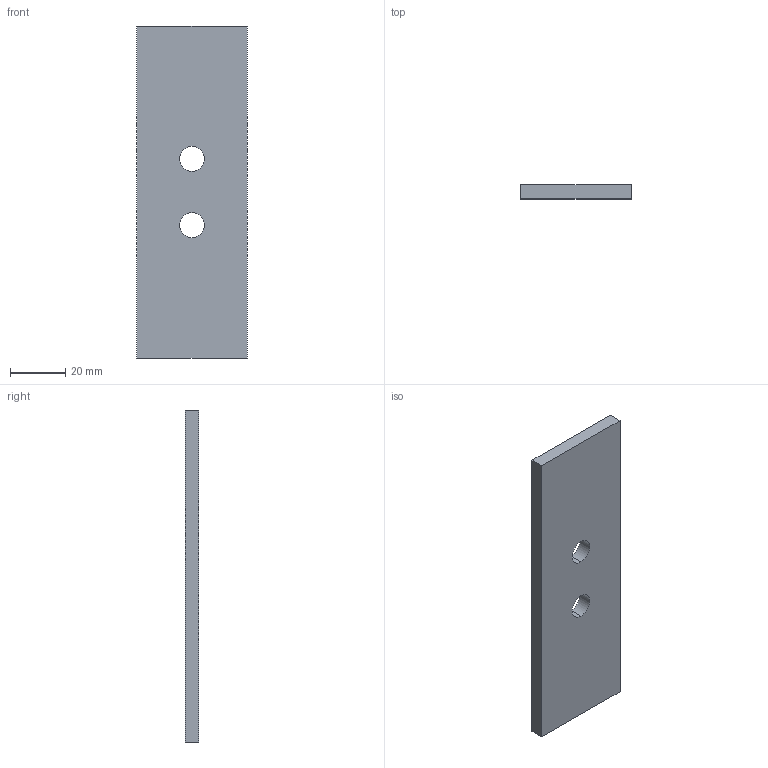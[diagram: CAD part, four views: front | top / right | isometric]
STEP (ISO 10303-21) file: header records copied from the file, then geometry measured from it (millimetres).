
FILE_DESCRIPTION (( 'STEP AP214' ), '1' );
FILE_NAME ('ﾏ-40120-D8.STEP', '2026-07-20T07:38:14', ( '' ), ( '' ), 'SwSTEP 2.0', 'SolidWorks 2022', '' );
FILE_SCHEMA (( 'AUTOMOTIVE_DESIGN' ));
Length unit declared in the file: millimetre
Products named in the file (1): П-40120-D8
Bounding box: 40 x 5 x 120 mm (x, y, z)
Volume: 23363.8 mm3; surface area: 11228.3 mm2
Topology: 1 solids, 1 shells, 10 faces, 24 edges, 16 vertices
Faces by surface type: plane 6, cylinder 4
Entity records: 338 total; most frequent: DIRECTION 54, CARTESIAN_POINT 51, ORIENTED_EDGE 48, EDGE_CURVE 24, AXIS2_PLACEMENT_3D 19, VERTEX_POINT 16, VECTOR 16, LINE 16
